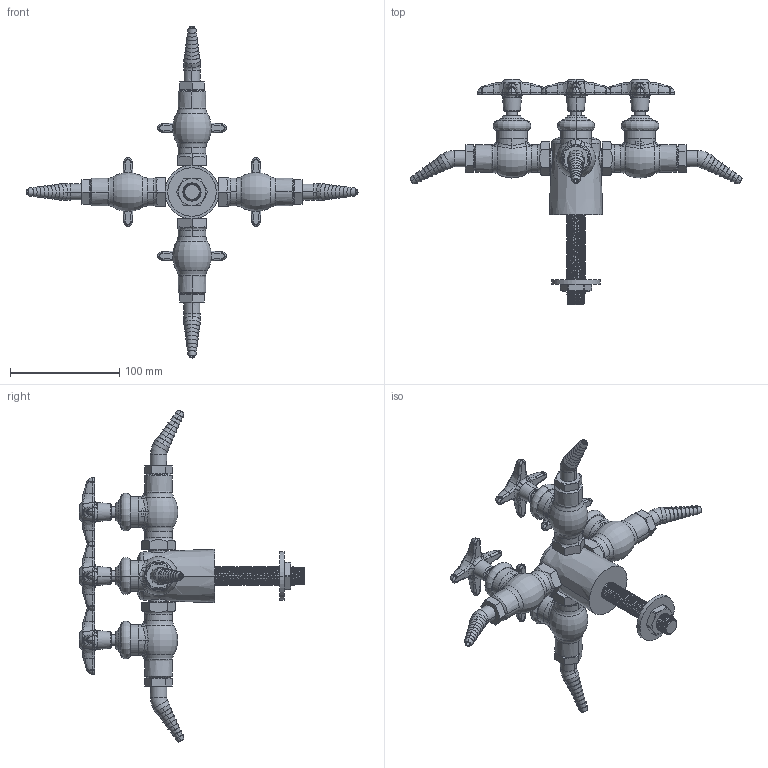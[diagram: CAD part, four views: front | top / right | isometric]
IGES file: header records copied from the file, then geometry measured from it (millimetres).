
Start section:  PTC IGES file: LWV1-A23-40.igs
Global section: file name: LWV1-A23-40.igs; native system: Creo Parametric by PTC Inc.; preprocessor: 2014500; author: usch_engrender; organization: Unknown; date: 20151110.135905; units: inch
Bounding box: 304.35 x 206.85 x 304.35 mm (x, y, z)
Volume: 453511.6 mm3; surface area: 104388.8 mm2
Topology: 1 solids, 13 shells, 1384 faces, 3215 edges, 1931 vertices
Faces by surface type: bspline 821, revolution 563
